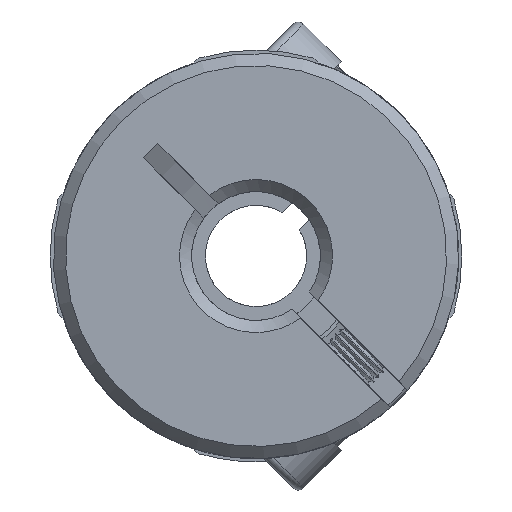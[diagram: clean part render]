
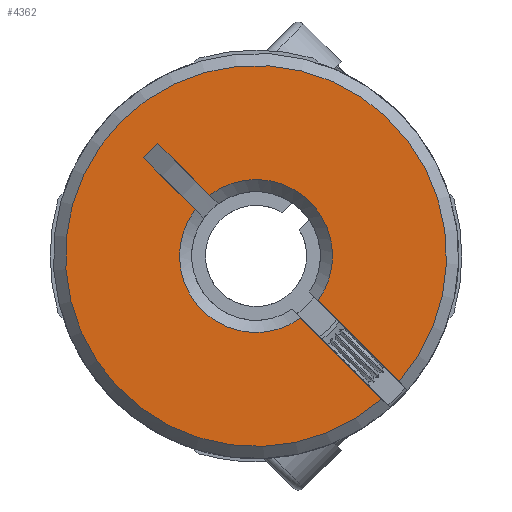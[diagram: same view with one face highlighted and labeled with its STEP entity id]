
A CAD part, front view. The second image highlights one B-rep face of the part: STEP entity #4362.
In plain terms, the highlighted planar face has unit normal (0, -1, 0).
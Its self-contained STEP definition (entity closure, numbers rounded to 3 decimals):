
#83 = VECTOR ( 'NONE', #5780, 1000. ) ;
#107 = LINE ( 'NONE', #13185, #6189 ) ;
#612 = LINE ( 'NONE', #6568, #3977 ) ;
#772 = ORIENTED_EDGE ( 'NONE', *, *, #11658, .F. ) ;
#876 = VERTEX_POINT ( 'NONE', #9394 ) ;
#1113 = VECTOR ( 'NONE', #6197, 1000. ) ;
#1332 = PLANE ( 'NONE',  #5973 ) ;
#1549 = EDGE_LOOP ( 'NONE', ( #8660, #4638, #5726, #2468, #772, #11265, #5562, #12952 ) ) ;
#1616 = VERTEX_POINT ( 'NONE', #5188 ) ;
#2149 = CIRCLE ( 'NONE', #10117, 3.775 ) ;
#2205 = FACE_OUTER_BOUND ( 'NONE', #1549, .T. ) ;
#2300 = CARTESIAN_POINT ( 'NONE',  ( 0., -12.6, 0. ) ) ;
#2368 = EDGE_CURVE ( 'NONE', #6107, #1616, #612, .T. ) ;
#2468 = ORIENTED_EDGE ( 'NONE', *, *, #6621, .T. ) ;
#2924 = VERTEX_POINT ( 'NONE', #3592 ) ;
#3294 = CARTESIAN_POINT ( 'NONE',  ( -4.842, -12.6, 5.549 ) ) ;
#3433 = CARTESIAN_POINT ( 'NONE',  ( 2.211, -12.6, -3.06 ) ) ;
#3592 = CARTESIAN_POINT ( 'NONE',  ( 7.058, -12.6, -6.209 ) ) ;
#3914 = AXIS2_PLACEMENT_3D ( 'NONE', #2300, #9367, #5456 ) ;
#3977 = VECTOR ( 'NONE', #9684, 1000. ) ;
#3990 = LINE ( 'NONE', #3294, #1113 ) ;
#4105 = CIRCLE ( 'NONE', #7150, 3.775 ) ;
#4362 = ADVANCED_FACE ( 'NONE', ( #2205 ), #1332, .F. ) ;
#4367 = DIRECTION ( 'NONE',  ( 0., 1., 0. ) ) ;
#4638 = ORIENTED_EDGE ( 'NONE', *, *, #11571, .T. ) ;
#4795 = CARTESIAN_POINT ( 'NONE',  ( 2.629, -12.6, -1.78 ) ) ;
#5188 = CARTESIAN_POINT ( 'NONE',  ( -2.999, -12.6, 2.292 ) ) ;
#5326 = CARTESIAN_POINT ( 'NONE',  ( 5.657, -12.6, -4.95 ) ) ;
#5456 = DIRECTION ( 'NONE',  ( 0.707, 0., -0.707 ) ) ;
#5562 = ORIENTED_EDGE ( 'NONE', *, *, #2368, .F. ) ;
#5726 = ORIENTED_EDGE ( 'NONE', *, *, #12562, .F. ) ;
#5780 = DIRECTION ( 'NONE',  ( -0.707, 0., 0.707 ) ) ;
#5973 = AXIS2_PLACEMENT_3D ( 'NONE', #12377, #10417, #8466 ) ;
#6107 = VERTEX_POINT ( 'NONE', #8388 ) ;
#6189 = VECTOR ( 'NONE', #11081, 1000. ) ;
#6197 = DIRECTION ( 'NONE',  ( -0.707, 0., -0.707 ) ) ;
#6457 = CARTESIAN_POINT ( 'NONE',  ( 0., -12.6, 0. ) ) ;
#6568 = CARTESIAN_POINT ( 'NONE',  ( 4.95, -12.6, -5.657 ) ) ;
#6621 = EDGE_CURVE ( 'NONE', #2924, #876, #9306, .T. ) ;
#6808 = EDGE_CURVE ( 'NONE', #9861, #1616, #2149, .T. ) ;
#7150 = AXIS2_PLACEMENT_3D ( 'NONE', #12004, #10945, #10894 ) ;
#7284 = LINE ( 'NONE', #4795, #83 ) ;
#7332 = CARTESIAN_POINT ( 'NONE',  ( -4.842, -12.6, 5.549 ) ) ;
#7530 = LINE ( 'NONE', #5326, #12918 ) ;
#7738 = EDGE_CURVE ( 'NONE', #12966, #10320, #7530, .T. ) ;
#8368 = CARTESIAN_POINT ( 'NONE',  ( -2.292, -12.6, 2.999 ) ) ;
#8388 = CARTESIAN_POINT ( 'NONE',  ( -5.549, -12.6, 4.842 ) ) ;
#8466 = DIRECTION ( 'NONE',  ( 0.707, 0., -0.707 ) ) ;
#8482 = VERTEX_POINT ( 'NONE', #11779 ) ;
#8660 = ORIENTED_EDGE ( 'NONE', *, *, #7738, .T. ) ;
#9200 = EDGE_CURVE ( 'NONE', #12966, #6107, #3990, .T. ) ;
#9306 = CIRCLE ( 'NONE', #3914, 9.4 ) ;
#9367 = DIRECTION ( 'NONE',  ( 0., -1., 0. ) ) ;
#9394 = CARTESIAN_POINT ( 'NONE',  ( 6.209, -12.6, -7.058 ) ) ;
#9684 = DIRECTION ( 'NONE',  ( 0.707, 0., -0.707 ) ) ;
#9861 = VERTEX_POINT ( 'NONE', #3433 ) ;
#10117 = AXIS2_PLACEMENT_3D ( 'NONE', #6457, #4367, #12417 ) ;
#10320 = VERTEX_POINT ( 'NONE', #8368 ) ;
#10417 = DIRECTION ( 'NONE',  ( 0., 1., 0. ) ) ;
#10894 = DIRECTION ( 'NONE',  ( 0.707, 0., -0.707 ) ) ;
#10945 = DIRECTION ( 'NONE',  ( 0., 1., 0. ) ) ;
#11081 = DIRECTION ( 'NONE',  ( 0.707, 0., -0.707 ) ) ;
#11265 = ORIENTED_EDGE ( 'NONE', *, *, #6808, .T. ) ;
#11571 = EDGE_CURVE ( 'NONE', #10320, #8482, #4105, .T. ) ;
#11658 = EDGE_CURVE ( 'NONE', #9861, #876, #107, .T. ) ;
#11779 = CARTESIAN_POINT ( 'NONE',  ( 3.06, -12.6, -2.211 ) ) ;
#12004 = CARTESIAN_POINT ( 'NONE',  ( 0., -12.6, 0. ) ) ;
#12377 = CARTESIAN_POINT ( 'NONE',  ( 342.528, -12.6, 364.579 ) ) ;
#12417 = DIRECTION ( 'NONE',  ( 0.707, 0., -0.707 ) ) ;
#12551 = DIRECTION ( 'NONE',  ( 0.707, 0., -0.707 ) ) ;
#12562 = EDGE_CURVE ( 'NONE', #2924, #8482, #7284, .T. ) ;
#12918 = VECTOR ( 'NONE', #12551, 1000. ) ;
#12952 = ORIENTED_EDGE ( 'NONE', *, *, #9200, .F. ) ;
#12966 = VERTEX_POINT ( 'NONE', #7332 ) ;
#13185 = CARTESIAN_POINT ( 'NONE',  ( 1.78, -12.6, -2.629 ) ) ;
